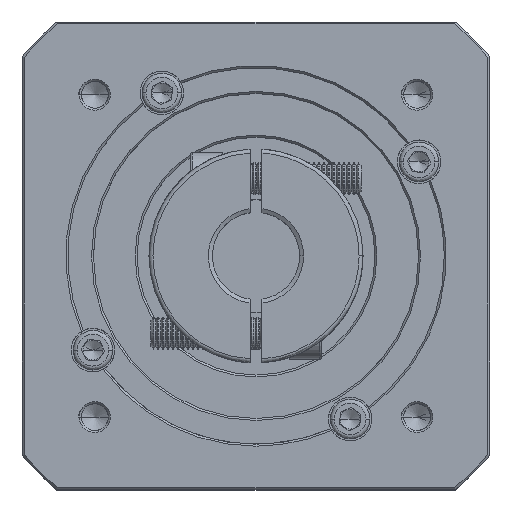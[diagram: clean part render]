
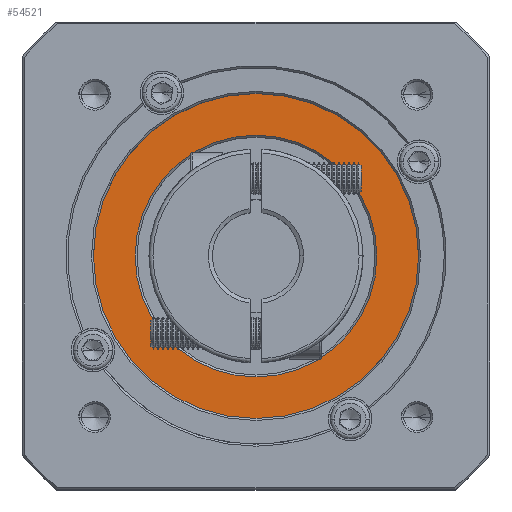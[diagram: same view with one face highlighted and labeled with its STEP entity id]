
A CAD part, top view. The second image highlights one B-rep face of the part: STEP entity #54521.
In plain terms, the highlighted planar face has unit normal (0, 0, 1).
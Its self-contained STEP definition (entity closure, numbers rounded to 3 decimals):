
#4237 = EDGE_CURVE ( 'NONE', #80987, #63191, #117448, .T. ) ;
#6577 = CARTESIAN_POINT ( 'NONE',  ( 82.48, 115.772, -19.75 ) ) ;
#10581 = AXIS2_PLACEMENT_3D ( 'NONE', #21427, #87631, #30956 ) ;
#12465 = CARTESIAN_POINT ( 'NONE',  ( 41.48, 115.772, -19.75 ) ) ;
#14363 = AXIS2_PLACEMENT_3D ( 'NONE', #106099, #49439, #115566 ) ;
#21427 = CARTESIAN_POINT ( 'NONE',  ( 41.48, 115.772, -19.75 ) ) ;
#21908 = DIRECTION ( 'NONE',  ( 1., 0., 0. ) ) ;
#23103 = CIRCLE ( 'NONE', #14363, 30.5 ) ;
#25138 = AXIS2_PLACEMENT_3D ( 'NONE', #12465, #78588, #21908 ) ;
#30956 = DIRECTION ( 'NONE',  ( 1., 0., 0. ) ) ;
#31742 = CARTESIAN_POINT ( 'NONE',  ( 41.48, 115.772, -19.75 ) ) ;
#41319 = DIRECTION ( 'NONE',  ( 1., 0., 0. ) ) ;
#41835 = CARTESIAN_POINT ( 'NONE',  ( 10.98, 115.772, -19.75 ) ) ;
#47888 = DIRECTION ( 'NONE',  ( 0., 0., -1. ) ) ;
#49439 = DIRECTION ( 'NONE',  ( 0., 0., -1. ) ) ;
#49666 = ORIENTED_EDGE ( 'NONE', *, *, #63594, .T. ) ;
#50379 = PLANE ( 'NONE',  #107414 ) ;
#52528 = EDGE_CURVE ( 'NONE', #63191, #80987, #116840, .T. ) ;
#54521 = ADVANCED_FACE ( 'NONE', ( #83768, #58645 ), #50379, .T. ) ;
#54965 = ORIENTED_EDGE ( 'NONE', *, *, #4237, .T. ) ;
#58645 = FACE_BOUND ( 'NONE', #59407, .T. ) ;
#59407 = EDGE_LOOP ( 'NONE', ( #49666, #64848 ) ) ;
#60705 = VERTEX_POINT ( 'NONE', #41835 ) ;
#63191 = VERTEX_POINT ( 'NONE', #6577 ) ;
#63594 = EDGE_CURVE ( 'NONE', #78507, #60705, #23103, .T. ) ;
#64848 = ORIENTED_EDGE ( 'NONE', *, *, #99746, .T. ) ;
#75002 = CIRCLE ( 'NONE', #110251, 30.5 ) ;
#75661 = EDGE_LOOP ( 'NONE', ( #85119, #54965 ) ) ;
#78507 = VERTEX_POINT ( 'NONE', #114902 ) ;
#78588 = DIRECTION ( 'NONE',  ( 0., 0., 1. ) ) ;
#80987 = VERTEX_POINT ( 'NONE', #108097 ) ;
#83768 = FACE_OUTER_BOUND ( 'NONE', #75661, .T. ) ;
#85119 = ORIENTED_EDGE ( 'NONE', *, *, #52528, .T. ) ;
#87631 = DIRECTION ( 'NONE',  ( 0., 0., 1. ) ) ;
#97953 = DIRECTION ( 'NONE',  ( 0., 0., 1. ) ) ;
#99746 = EDGE_CURVE ( 'NONE', #60705, #78507, #75002, .T. ) ;
#104553 = CARTESIAN_POINT ( 'NONE',  ( 41.48, 115.772, -19.75 ) ) ;
#106099 = CARTESIAN_POINT ( 'NONE',  ( 41.48, 115.772, -19.75 ) ) ;
#107414 = AXIS2_PLACEMENT_3D ( 'NONE', #31742, #97953, #41319 ) ;
#108097 = CARTESIAN_POINT ( 'NONE',  ( 0.48, 115.772, -19.75 ) ) ;
#110251 = AXIS2_PLACEMENT_3D ( 'NONE', #104553, #47888, #113987 ) ;
#113987 = DIRECTION ( 'NONE',  ( 1., 0., 0. ) ) ;
#114902 = CARTESIAN_POINT ( 'NONE',  ( 71.98, 115.772, -19.75 ) ) ;
#115566 = DIRECTION ( 'NONE',  ( 1., 0., 0. ) ) ;
#116840 = CIRCLE ( 'NONE', #10581, 41. ) ;
#117448 = CIRCLE ( 'NONE', #25138, 41. ) ;
